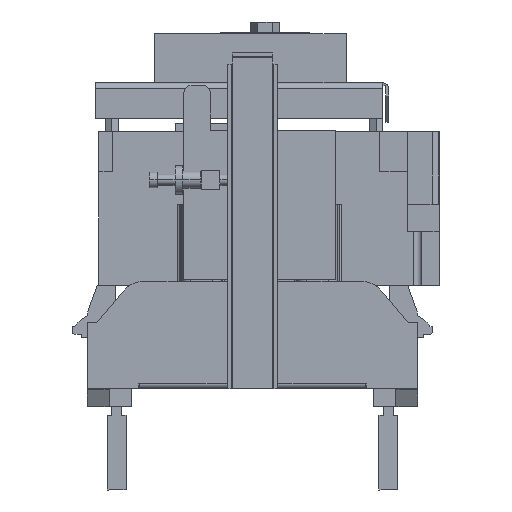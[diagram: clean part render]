
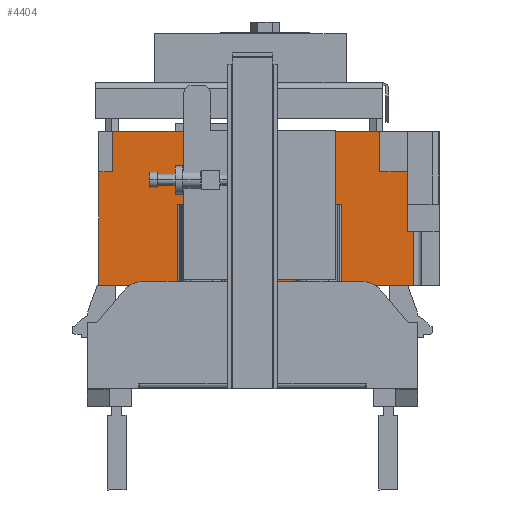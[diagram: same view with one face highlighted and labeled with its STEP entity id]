
A CAD part, left-side view. The second image highlights one B-rep face of the part: STEP entity #4404.
In plain terms, the highlighted planar face has unit normal (-1, 0, 0).
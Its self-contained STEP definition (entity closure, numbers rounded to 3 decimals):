
#168 = LINE ( 'NONE', #22301, #19522 ) ;
#257 = DIRECTION ( 'NONE',  ( 0., 0., -1. ) ) ;
#553 = DIRECTION ( 'NONE',  ( 0., -1., 0. ) ) ;
#678 = VECTOR ( 'NONE', #8093, 1000. ) ;
#841 = LINE ( 'NONE', #5914, #1438 ) ;
#922 = ORIENTED_EDGE ( 'NONE', *, *, #15203, .F. ) ;
#1133 = VECTOR ( 'NONE', #11693, 1000. ) ;
#1386 = VECTOR ( 'NONE', #16925, 1000. ) ;
#1438 = VECTOR ( 'NONE', #257, 1000. ) ;
#1579 = VERTEX_POINT ( 'NONE', #5244 ) ;
#1647 = DIRECTION ( 'NONE',  ( 0., 1., 0. ) ) ;
#1726 = LINE ( 'NONE', #13708, #20469 ) ;
#1937 = VECTOR ( 'NONE', #15753, 1000. ) ;
#2182 = ORIENTED_EDGE ( 'NONE', *, *, #19424, .F. ) ;
#2201 = CARTESIAN_POINT ( 'NONE',  ( -225., 277.247, 86. ) ) ;
#2226 = LINE ( 'NONE', #19792, #6617 ) ;
#2324 = CARTESIAN_POINT ( 'NONE',  ( -225., 361., 0. ) ) ;
#2455 = CARTESIAN_POINT ( 'NONE',  ( -225., 27.25, 57.45 ) ) ;
#2671 = EDGE_CURVE ( 'NONE', #21309, #24165, #2226, .T. ) ;
#2771 = LINE ( 'NONE', #17634, #12185 ) ;
#2860 = EDGE_CURVE ( 'NONE', #4429, #12693, #6318, .T. ) ;
#3171 = VECTOR ( 'NONE', #9976, 1000. ) ;
#3215 = VERTEX_POINT ( 'NONE', #9649 ) ;
#3783 = CARTESIAN_POINT ( 'NONE',  ( -225., 361., 120.35 ) ) ;
#3786 = CARTESIAN_POINT ( 'NONE',  ( -225., 361., 0. ) ) ;
#3851 = VERTEX_POINT ( 'NONE', #23620 ) ;
#3866 = CARTESIAN_POINT ( 'NONE',  ( -225., 277.247, 0. ) ) ;
#4108 = VERTEX_POINT ( 'NONE', #2201 ) ;
#4271 = VECTOR ( 'NONE', #11276, 1000. ) ;
#4357 = LINE ( 'NONE', #6035, #23648 ) ;
#4404 = ADVANCED_FACE ( 'NONE', ( #17954 ), #8428, .F. ) ;
#4429 = VERTEX_POINT ( 'NONE', #23454 ) ;
#4672 = CARTESIAN_POINT ( 'NONE',  ( -225., 103.86, 0. ) ) ;
#5224 = VERTEX_POINT ( 'NONE', #16058 ) ;
#5244 = CARTESIAN_POINT ( 'NONE',  ( -225., 63.042, 162.85 ) ) ;
#5246 = ORIENTED_EDGE ( 'NONE', *, *, #8083, .T. ) ;
#5486 = LINE ( 'NONE', #6749, #14897 ) ;
#5548 = LINE ( 'NONE', #21001, #1133 ) ;
#5564 = CARTESIAN_POINT ( 'NONE',  ( -225., 346.2, 120.35 ) ) ;
#5914 = CARTESIAN_POINT ( 'NONE',  ( -225., 153.728, 86. ) ) ;
#5983 = ORIENTED_EDGE ( 'NONE', *, *, #2671, .F. ) ;
#6035 = CARTESIAN_POINT ( 'NONE',  ( -225., 153.728, 86. ) ) ;
#6318 = LINE ( 'NONE', #8253, #1937 ) ;
#6346 = EDGE_CURVE ( 'NONE', #10837, #13002, #16999, .T. ) ;
#6616 = EDGE_CURVE ( 'NONE', #4108, #5224, #1726, .T. ) ;
#6617 = VECTOR ( 'NONE', #21651, 1000. ) ;
#6749 = CARTESIAN_POINT ( 'NONE',  ( -225., 27.25, 70.959 ) ) ;
#7515 = VERTEX_POINT ( 'NONE', #3866 ) ;
#7768 = VERTEX_POINT ( 'NONE', #14271 ) ;
#8083 = EDGE_CURVE ( 'NONE', #3215, #21714, #4357, .T. ) ;
#8093 = DIRECTION ( 'NONE',  ( 0., 0., -1. ) ) ;
#8176 = ORIENTED_EDGE ( 'NONE', *, *, #9448, .T. ) ;
#8253 = CARTESIAN_POINT ( 'NONE',  ( -225., 0., 0. ) ) ;
#8273 = CARTESIAN_POINT ( 'NONE',  ( -225., 346.2, 120.35 ) ) ;
#8302 = VECTOR ( 'NONE', #12775, 1000. ) ;
#8428 = PLANE ( 'NONE',  #11806 ) ;
#8604 = EDGE_CURVE ( 'NONE', #20975, #14355, #15778, .T. ) ;
#9011 = EDGE_CURVE ( 'NONE', #7768, #1579, #16329, .T. ) ;
#9059 = VECTOR ( 'NONE', #1647, 1000. ) ;
#9233 = DIRECTION ( 'NONE',  ( 0., 0., -1. ) ) ;
#9448 = EDGE_CURVE ( 'NONE', #21714, #12693, #168, .T. ) ;
#9593 = CARTESIAN_POINT ( 'NONE',  ( -225., 33.677, 57.45 ) ) ;
#9649 = CARTESIAN_POINT ( 'NONE',  ( -225., 153.728, 86. ) ) ;
#9976 = DIRECTION ( 'NONE',  ( 0., 1., 0. ) ) ;
#10333 = DIRECTION ( 'NONE',  ( 0., 0., -1. ) ) ;
#10596 = DIRECTION ( 'NONE',  ( 0., -1., 0. ) ) ;
#10715 = LINE ( 'NONE', #5564, #15114 ) ;
#10717 = EDGE_CURVE ( 'NONE', #4108, #7515, #15669, .T. ) ;
#10799 = CARTESIAN_POINT ( 'NONE',  ( -225., 227.378, 86. ) ) ;
#10837 = VERTEX_POINT ( 'NONE', #17855 ) ;
#10966 = CARTESIAN_POINT ( 'NONE',  ( -225., 103.86, 86. ) ) ;
#11276 = DIRECTION ( 'NONE',  ( 0., -1., 0. ) ) ;
#11308 = ORIENTED_EDGE ( 'NONE', *, *, #14308, .F. ) ;
#11693 = DIRECTION ( 'NONE',  ( 0., 0., 1. ) ) ;
#11806 = AXIS2_PLACEMENT_3D ( 'NONE', #12141, #21523, #10333 ) ;
#12141 = CARTESIAN_POINT ( 'NONE',  ( -225., 0., 0. ) ) ;
#12185 = VECTOR ( 'NONE', #19521, 1000. ) ;
#12318 = CARTESIAN_POINT ( 'NONE',  ( -225., 153.728, 0. ) ) ;
#12600 = VECTOR ( 'NONE', #12897, 1000. ) ;
#12693 = VERTEX_POINT ( 'NONE', #4672 ) ;
#12713 = ORIENTED_EDGE ( 'NONE', *, *, #6346, .F. ) ;
#12775 = DIRECTION ( 'NONE',  ( 0., 0., -1. ) ) ;
#12894 = CARTESIAN_POINT ( 'NONE',  ( -225., 0., 0. ) ) ;
#12897 = DIRECTION ( 'NONE',  ( 0., -1., 0. ) ) ;
#13002 = VERTEX_POINT ( 'NONE', #24261 ) ;
#13179 = LINE ( 'NONE', #23028, #3171 ) ;
#13638 = ORIENTED_EDGE ( 'NONE', *, *, #22966, .F. ) ;
#13708 = CARTESIAN_POINT ( 'NONE',  ( -225., 277.247, 86. ) ) ;
#14250 = ORIENTED_EDGE ( 'NONE', *, *, #10717, .F. ) ;
#14271 = CARTESIAN_POINT ( 'NONE',  ( -225., 346.2, 162.85 ) ) ;
#14308 = EDGE_CURVE ( 'NONE', #24165, #4429, #5486, .T. ) ;
#14355 = VERTEX_POINT ( 'NONE', #21906 ) ;
#14370 = CARTESIAN_POINT ( 'NONE',  ( -225., 361., 162.85 ) ) ;
#14897 = VECTOR ( 'NONE', #21746, 1000. ) ;
#15114 = VECTOR ( 'NONE', #16717, 1000. ) ;
#15203 = EDGE_CURVE ( 'NONE', #14355, #20028, #19216, .T. ) ;
#15462 = EDGE_CURVE ( 'NONE', #13002, #21309, #2771, .T. ) ;
#15669 = LINE ( 'NONE', #21202, #678 ) ;
#15753 = DIRECTION ( 'NONE',  ( 0., 1., 0. ) ) ;
#15778 = LINE ( 'NONE', #3786, #1386 ) ;
#16058 = CARTESIAN_POINT ( 'NONE',  ( -225., 227.378, 86. ) ) ;
#16329 = LINE ( 'NONE', #14370, #20121 ) ;
#16717 = DIRECTION ( 'NONE',  ( 0., 0., 1. ) ) ;
#16838 = ORIENTED_EDGE ( 'NONE', *, *, #18428, .F. ) ;
#16925 = DIRECTION ( 'NONE',  ( 0., 0., 1. ) ) ;
#16999 = LINE ( 'NONE', #22186, #12600 ) ;
#17497 = ORIENTED_EDGE ( 'NONE', *, *, #9011, .F. ) ;
#17634 = CARTESIAN_POINT ( 'NONE',  ( -225., 33.542, 162.85 ) ) ;
#17855 = CARTESIAN_POINT ( 'NONE',  ( -225., 63.042, 120.35 ) ) ;
#17951 = ORIENTED_EDGE ( 'NONE', *, *, #2860, .F. ) ;
#17954 = FACE_OUTER_BOUND ( 'NONE', #20050, .T. ) ;
#18211 = ORIENTED_EDGE ( 'NONE', *, *, #8604, .F. ) ;
#18286 = LINE ( 'NONE', #10799, #8302 ) ;
#18428 = EDGE_CURVE ( 'NONE', #3215, #22689, #841, .T. ) ;
#18502 = EDGE_CURVE ( 'NONE', #7515, #20975, #19022, .T. ) ;
#18721 = ORIENTED_EDGE ( 'NONE', *, *, #15462, .F. ) ;
#19022 = LINE ( 'NONE', #12894, #9059 ) ;
#19145 = DIRECTION ( 'NONE',  ( 0., -1., 0. ) ) ;
#19216 = LINE ( 'NONE', #3783, #4271 ) ;
#19351 = EDGE_CURVE ( 'NONE', #10837, #1579, #5548, .T. ) ;
#19424 = EDGE_CURVE ( 'NONE', #22689, #3851, #13179, .T. ) ;
#19521 = DIRECTION ( 'NONE',  ( 0., 0.001, -1. ) ) ;
#19522 = VECTOR ( 'NONE', #9233, 1000. ) ;
#19792 = CARTESIAN_POINT ( 'NONE',  ( -225., 33.677, 57.45 ) ) ;
#20028 = VERTEX_POINT ( 'NONE', #8273 ) ;
#20050 = EDGE_LOOP ( 'NONE', ( #8176, #17951, #11308, #5983, #18721, #12713, #21112, #17497, #13638, #922, #18211, #20550, #14250, #23973, #22060, #2182, #16838, #5246 ) ) ;
#20121 = VECTOR ( 'NONE', #10596, 1000. ) ;
#20469 = VECTOR ( 'NONE', #553, 1000. ) ;
#20550 = ORIENTED_EDGE ( 'NONE', *, *, #18502, .F. ) ;
#20975 = VERTEX_POINT ( 'NONE', #2324 ) ;
#21001 = CARTESIAN_POINT ( 'NONE',  ( -225., 63.042, 120.35 ) ) ;
#21112 = ORIENTED_EDGE ( 'NONE', *, *, #19351, .T. ) ;
#21202 = CARTESIAN_POINT ( 'NONE',  ( -225., 277.247, 86. ) ) ;
#21309 = VERTEX_POINT ( 'NONE', #9593 ) ;
#21523 = DIRECTION ( 'NONE',  ( 1., 0., 0. ) ) ;
#21651 = DIRECTION ( 'NONE',  ( 0., -1., 0. ) ) ;
#21714 = VERTEX_POINT ( 'NONE', #10966 ) ;
#21746 = DIRECTION ( 'NONE',  ( 0., 0., -1. ) ) ;
#21906 = CARTESIAN_POINT ( 'NONE',  ( -225., 361., 120.35 ) ) ;
#22060 = ORIENTED_EDGE ( 'NONE', *, *, #23427, .T. ) ;
#22186 = CARTESIAN_POINT ( 'NONE',  ( -225., 33.542, 120.35 ) ) ;
#22301 = CARTESIAN_POINT ( 'NONE',  ( -225., 103.86, 86. ) ) ;
#22689 = VERTEX_POINT ( 'NONE', #12318 ) ;
#22966 = EDGE_CURVE ( 'NONE', #20028, #7768, #10715, .T. ) ;
#23028 = CARTESIAN_POINT ( 'NONE',  ( -225., 0., 0. ) ) ;
#23427 = EDGE_CURVE ( 'NONE', #5224, #3851, #18286, .T. ) ;
#23454 = CARTESIAN_POINT ( 'NONE',  ( -225., 27.25, 0. ) ) ;
#23620 = CARTESIAN_POINT ( 'NONE',  ( -225., 227.378, 0. ) ) ;
#23648 = VECTOR ( 'NONE', #19145, 1000. ) ;
#23973 = ORIENTED_EDGE ( 'NONE', *, *, #6616, .T. ) ;
#24165 = VERTEX_POINT ( 'NONE', #2455 ) ;
#24261 = CARTESIAN_POINT ( 'NONE',  ( -225., 33.596, 120.35 ) ) ;
